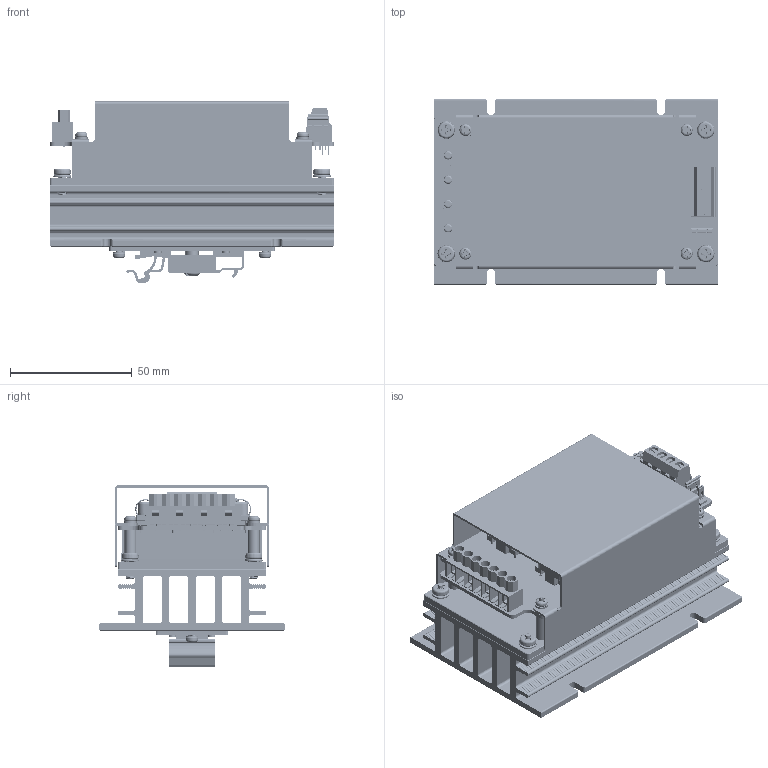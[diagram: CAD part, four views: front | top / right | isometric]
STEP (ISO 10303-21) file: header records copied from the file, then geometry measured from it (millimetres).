
FILE_DESCRIPTION (( 'STEP AP203' ), '1' );
FILE_NAME ('CQBXXX-300S-CMFD+HD 2023.07.19.STEP', '2023-07-20T00:48:20', ( '' ), ( '' ), 'SwSTEP 2.0', 'SolidWorks 2020', '' );
FILE_SCHEMA (( 'CONFIG_CONTROL_DESIGN' ));
Products named in the file (1): CQBXXX-300S-CMFD+HD 2023.07.19
Bounding box: 116.84 x 76.2 x 74.5 mm (x, y, z)
Volume: 178524.9 mm3; surface area: 125046 mm2
Topology: 16 solids, 27 shells, 3726 faces, 12117 edges, 7811 vertices
Faces by surface type: plane 2031, cylinder 777, bspline 652, cone 142, torus 86, sphere 38
Full cylindrical faces by diameter (mm): 0.5 x8, 0.8 x6, 0.9 x4, 1 x14, 1.15 x6, 1.2 x6, 1.5 x4, 1.65 x2, 1.8 x2, 2.2 x12, 2.5 x10, 2.6 x7, 2.8 x5, 3 x5, 3.2 x15, 3.25 x1, 3.5 x4, 3.8 x4, 3.9 x42, 4 x7, 4.3 x2, 4.445 x1, 4.45 x4, 4.5 x7, 4.7 x10, 5 x5, 5.4 x2, 7.8 x1, 8 x1, 8.8 x1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
Entity records: 530447 total; most frequent: CARTESIAN_POINT 435917, ORIENTED_EDGE 23110, DIRECTION 15308, EDGE_CURVE 11555, VERTEX_POINT 7596, LINE 5790, VECTOR 5790, AXIS2_PLACEMENT_3D 4759
